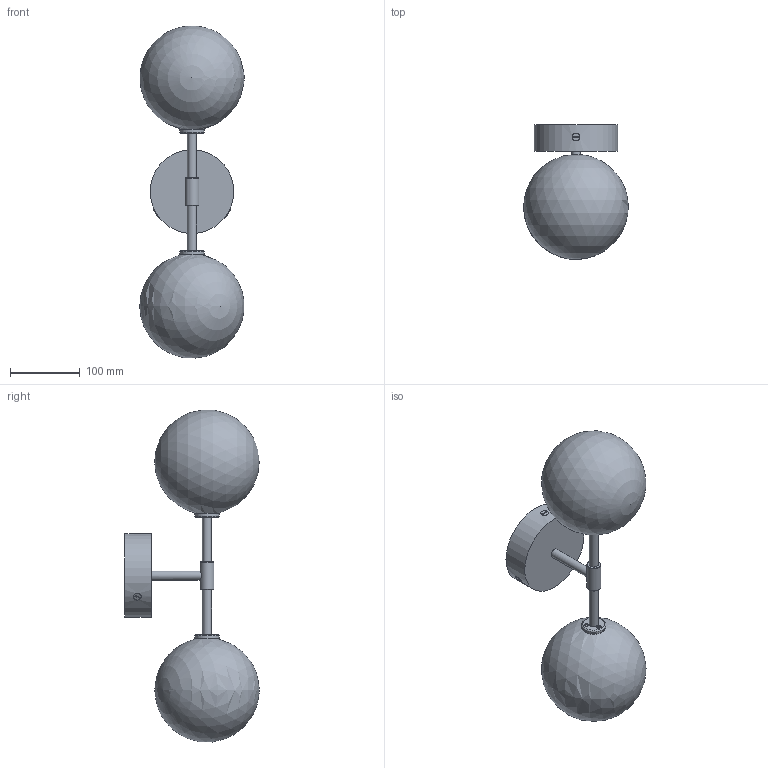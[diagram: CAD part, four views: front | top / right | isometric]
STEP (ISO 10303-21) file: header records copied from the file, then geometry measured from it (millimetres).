
FILE_DESCRIPTION(/* description */ (''),/* implementation_level */ '2;1');
FILE_NAME(/* name */ 'T:\B111 Kinkiet Dawn Dual\Pliki bryłowe handlowe\B111 Dawn Dual 3D files\B111 Dawn Dual.stp',/* time_stamp */ '2022-01-20T14:54:33+01:00',/* author */ ('Mariusz Awariusz'),/* organization */ (''),/* preprocessor_version */ 'ST-DEVELOPER v18.1',/* originating_system */ 'Autodesk Inventor 2022',/* authorisation */ '');
FILE_SCHEMA (('AUTOMOTIVE_DESIGN { 1 0 10303 214 3 1 1 }'));
Length unit declared in the file: millimetre
Products named in the file (1): Dawn Dual Sconce CE V8.1_na potrzeby plików 3D_jako część
Bounding box: 149.93 x 193 x 476.09 mm (x, y, z)
Volume: 753945.7 mm3; surface area: 328407 mm2
Topology: 1 solids, 5 shells, 138 faces, 313 edges, 208 vertices
Faces by surface type: cylinder 51, plane 39, cone 38, sphere 6, torus 4
Full cylindrical faces by diameter (mm): 2.693 x6, 3 x12, 4 x6, 5.5 x6, 11.6 x2, 11.917 x2, 13 x5, 20 x1, 33 x2, 35 x2, 120 x1
Entity records: 4251 total; most frequent: CARTESIAN_POINT 1025, DIRECTION 706, ORIENTED_EDGE 610, EDGE_CURVE 305, AXIS2_PLACEMENT_3D 301, VERTEX_POINT 208, EDGE_LOOP 185, CIRCLE 158
